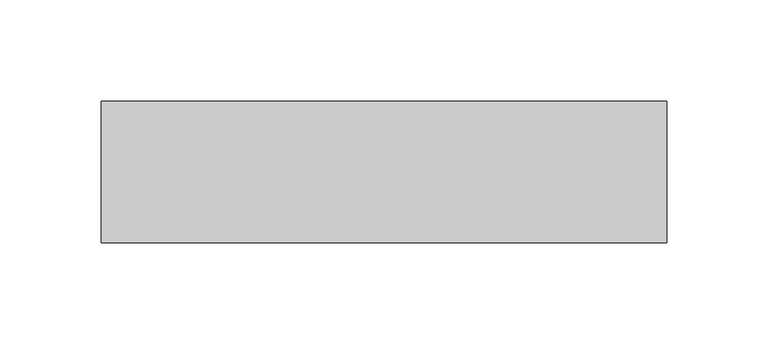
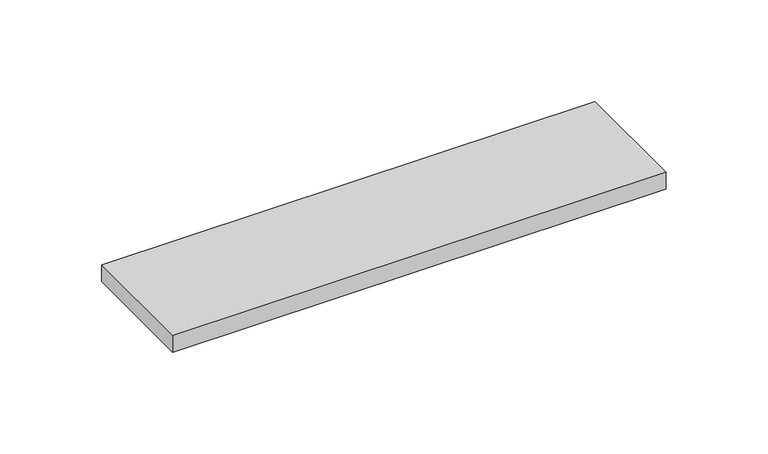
"""IFC4 building model written with IfcOpenShell, lengths in millimetres: furniture geometry, Prateleira de Vidro 10mm : Prateleira de Vidro."""

import ifcopenshell
import ifcopenshell.guid

model = None  # the IFC model being written
_history = None  # IfcOwnerHistory: only IFC2X3 demands one
_inside = {}  # id of a spatial element -> (the spatial element, [elements in it])
_under = {}  # id of a project, library or spatial element -> (it, [spatial elements below it])
_declared = {}  # id of a project -> (the project, [libraries it declares])
_typed = {}  # id of a type object -> (the type object, [elements of that type])
_made_of = {}  # id of a material, layer set ... -> (it, [elements and type objects made of it])


def new_model(schema):
    """Start an empty IFC model of exactly this schema.

    Asked for "IFC4X3", IfcOpenShell would pick the latest addendum, in which some entities
    have other attributes; the version numbers below select the first issue.
    IFC2X3 requires an IfcOwnerHistory on every rooted entity: one is made here for all.
    """
    global model, _history
    if schema == "IFC4X3":
        model = ifcopenshell.file(schema_version=(4, 3, 0, 0))
    else:
        model = ifcopenshell.file(schema=schema)
    _inside.clear()
    _under.clear()
    _declared.clear()
    _typed.clear()
    _made_of.clear()
    _history = None
    if model.schema == "IFC2X3":
        org = make("IfcOrganization", Name="unknown")
        user = make(
            "IfcPersonAndOrganization",
            ThePerson=make("IfcPerson", FamilyName="unknown"),
            TheOrganization=org,
        )
        app = make(
            "IfcApplication",
            ApplicationDeveloper=org,
            Version="unknown",
            ApplicationFullName="unknown",
            ApplicationIdentifier="unknown",
        )
        _history = make(
            "IfcOwnerHistory",
            OwningUser=user,
            OwningApplication=app,
            ChangeAction="ADDED",
            CreationDate=0,
        )
    return model


def make(cls, **values):
    """One entity of the class cls with the attributes given. An attribute that is None is left unset."""
    return model.create_entity(
        cls, **{name: value for name, value in values.items() if value is not None}
    )


def rooted(cls, **values):
    """An entity with a GlobalId (a new one), such as an element, a storey or a relation."""
    return make(cls, GlobalId=ifcopenshell.guid.new(), OwnerHistory=_history, **values)


def si_unit(unit_type, name, prefix=None):
    """IfcSIUnit, for example si_unit("LENGTHUNIT", "METRE", prefix="MILLI")."""
    return make("IfcSIUnit", UnitType=unit_type, Prefix=prefix, Name=name)


def assignment(units):
    """IfcUnitAssignment: the units of a project."""
    return None if units is None else make("IfcUnitAssignment", Units=units)


def point(xyz):
    """IfcCartesianPoint."""
    return None if xyz is None else make("IfcCartesianPoint", Coordinates=xyz)


def direction(xyz):
    """IfcDirection."""
    return None if xyz is None else make("IfcDirection", DirectionRatios=xyz)


def frame(location, z_axis=None, x_axis=None):
    """IfcAxis2Placement3D, a coordinate frame: its origin and axes. An axis left out is left unset."""
    return make(
        "IfcAxis2Placement3D",
        Location=point(location),
        Axis=direction(z_axis),
        RefDirection=direction(x_axis),
    )


def origin():
    """The frame at (0, 0, 0) with its axes left unset."""
    return frame((0.0, 0.0, 0.0))


def origin_with_axes():
    """The frame at (0, 0, 0) with the z axis (0, 0, 1) and the x axis (1, 0, 0) written out."""
    return frame((0.0, 0.0, 0.0), z_axis=(0.0, 0.0, 1.0), x_axis=(1.0, 0.0, 0.0))


def place(relative_to, where):
    """IfcLocalPlacement: puts the frame where relative to a parent placement (None: the world)."""
    return make(
        "IfcLocalPlacement", PlacementRelTo=relative_to, RelativePlacement=where
    )


def context(
    kind, dimensions, precision=None, world=None, true_north=None, identifier=None
):
    """IfcGeometricRepresentationContext, for example the 3D "Model" context."""
    return make(
        "IfcGeometricRepresentationContext",
        ContextIdentifier=identifier,
        ContextType=kind,
        CoordinateSpaceDimension=dimensions,
        Precision=precision,
        WorldCoordinateSystem=world,
        TrueNorth=true_north,
    )


def project(units=None, contexts=None):
    """IfcProject with its units and contexts."""
    return rooted(
        "IfcProject",
        Name="project",
        RepresentationContexts=contexts,
        UnitsInContext=assignment(units),
    )


def spatial(cls, under=None, at=None, **own):
    """A site, building, storey or space (cls), placed at a placement, below another one or the project."""
    s = rooted(cls, ObjectPlacement=at, **own)
    if under is not None:
        _under.setdefault(under.id(), (under, []))[1].append(s)
    return s


def polyline(points):
    """IfcPolyline through the points."""
    return make("IfcPolyline", Points=[point(p) for p in points])


def outline(outer, holes=None, kind="AREA"):
    """IfcArbitraryClosedProfileDef: a profile drawn as a closed curve; with holes, ...WithVoids."""
    if holes is None:
        return make("IfcArbitraryClosedProfileDef", ProfileType=kind, OuterCurve=outer)
    return make(
        "IfcArbitraryProfileDefWithVoids",
        ProfileType=kind,
        OuterCurve=outer,
        InnerCurves=holes,
    )


def extrude(swept, where, along, depth):
    """IfcExtrudedAreaSolid: the profile swept, set in the frame where, extruded along a direction by depth."""
    return make(
        "IfcExtrudedAreaSolid",
        SweptArea=swept,
        Position=where,
        ExtrudedDirection=direction(along),
        Depth=depth,
    )


def shape(context_of_items, identifier, shape_type, items):
    """IfcShapeRepresentation: the items that make up one representation, for example the "Body"."""
    return make(
        "IfcShapeRepresentation",
        ContextOfItems=context_of_items,
        RepresentationIdentifier=identifier,
        RepresentationType=shape_type,
        Items=items,
    )


def source(mapping_origin, context_of_items, identifier, shape_type, items):
    """IfcRepresentationMap: a shape defined once, which mapped items show again and again."""
    return make(
        "IfcRepresentationMap",
        MappingOrigin=mapping_origin,
        MappedRepresentation=shape(context_of_items, identifier, shape_type, items),
    )


def transform(
    local_origin,
    x_axis=None,
    y_axis=None,
    z_axis=None,
    scale=None,
    scale2=None,
    scale3=None,
    uniform=True,
):
    """IfcCartesianTransformationOperator3D, or its non-uniform kind. x_axis, y_axis, z_axis: its Axis1, 2, 3."""
    if uniform:
        return make(
            "IfcCartesianTransformationOperator3D",
            Axis1=direction(x_axis),
            Axis2=direction(y_axis),
            LocalOrigin=point(local_origin),
            Scale=scale,
            Axis3=direction(z_axis),
        )
    return make(
        "IfcCartesianTransformationOperator3DnonUniform",
        Axis1=direction(x_axis),
        Axis2=direction(y_axis),
        LocalOrigin=point(local_origin),
        Scale=scale,
        Axis3=direction(z_axis),
        Scale2=scale2,
        Scale3=scale3,
    )


def mapped(mapping_source, mapping_target):
    """IfcMappedItem: shows the shape of a source again, moved by a transform."""
    return make(
        "IfcMappedItem", MappingSource=mapping_source, MappingTarget=mapping_target
    )


def made_of(thing, what):
    """Note that an element or type object is made of a material, layer set ...; save() writes the relation."""
    if what is not None:
        _made_of.setdefault(what.id(), (what, []))[1].append(thing)
    return thing


def element(
    cls,
    number,
    at=None,
    inside=None,
    cuts=None,
    type_object=None,
    material=None,
    context=None,
    identifier="Body",
    shape_type=None,
    held_by="IfcProductDefinitionShape",
    body=None,
    shapes=None,
    **own,
):
    """One element of the class cls, such as IfcWall. Its Tag is "e" and its number.

    at: its placement. inside: the storey or other place that contains it. cuts: it is an
    opening in that element (IfcRelVoidsElement). A single representation is given by context,
    identifier, shape_type and body (its items); several are given by shapes. held_by: the class
    of the entity that holds the representations. save() writes the other relations.
    """
    e = rooted(cls, Tag="e%d" % number, ObjectPlacement=at, **own)
    if body is not None:
        shapes = [shape(context, identifier, shape_type, body)]
    if shapes is not None:
        e.Representation = make(held_by, Representations=shapes)
    if inside is not None:
        _inside.setdefault(inside.id(), (inside, []))[1].append(e)
    if cuts is not None:
        rooted(
            "IfcRelVoidsElement", RelatingBuildingElement=cuts, RelatedOpeningElement=e
        )
    if type_object is not None:
        _typed.setdefault(type_object.id(), (type_object, []))[1].append(e)
    return made_of(e, material)


def aggregate(whole, parts):
    """IfcRelAggregates: a whole, such as a stair, and the parts it consists of."""
    return rooted("IfcRelAggregates", RelatingObject=whole, RelatedObjects=parts)


def save(model, path):
    """Write the relations noted so far, then the file.

    IfcRelAggregates (storeys below a building ...), IfcRelContainedInSpatialStructure (elements
    in a storey), IfcRelDefinesByType, IfcRelAssociatesMaterial and IfcRelDeclares: one each for
    every whole, place, type object, material and project.
    """
    for whole, parts in _under.values():
        aggregate(whole, parts)
    for where, things in _inside.values():
        rooted(
            "IfcRelContainedInSpatialStructure",
            RelatedElements=things,
            RelatingStructure=where,
        )
    for kind, things in _typed.values():
        rooted("IfcRelDefinesByType", RelatedObjects=things, RelatingType=kind)
    for what, things in _made_of.values():
        rooted("IfcRelAssociatesMaterial", RelatedObjects=things, RelatingMaterial=what)
    for by, libraries in _declared.values():
        rooted("IfcRelDeclares", RelatingContext=by, RelatedDefinitions=libraries)
    model.write(path)


def furniture_4a52a474(model_context):
    return source(origin(), model_context, "Body", "SweptSolid", [
        extrude(outline(polyline([(280.0, 0.0), (0.0, 0.0), (0.0, 70.0), (280.0, 70.0), (280.0, 0.0)])), origin_with_axes(), (0.0, 0.0, 1.0), 10.0),
    ])


if __name__ == "__main__":
    model = new_model("IFC4")
    model_context = context("Model", 3, world=origin())
    ifc_project = project(units=[si_unit("LENGTHUNIT", "METRE", prefix="MILLI")], contexts=[model_context])
    site = spatial("IfcSite", under=ifc_project)
    building = spatial("IfcBuilding", under=site)
    placement = place(None, origin())
    furniture_shape = furniture_4a52a474(model_context)
    element("IfcFurniture", 1, ObjectType="Prateleira de Vidro 10mm : Prateleira de Vidro", at=placement, inside=building, context=model_context, shape_type="MappedRepresentation", body=[
        mapped(furniture_shape, transform((0.0, 0.0, 0.0), x_axis=(1.0, 0.0, 0.0), y_axis=(0.0, 1.0, 0.0), z_axis=(0.0, 0.0, 1.0))),
    ])
    save(model, "model.ifc")
